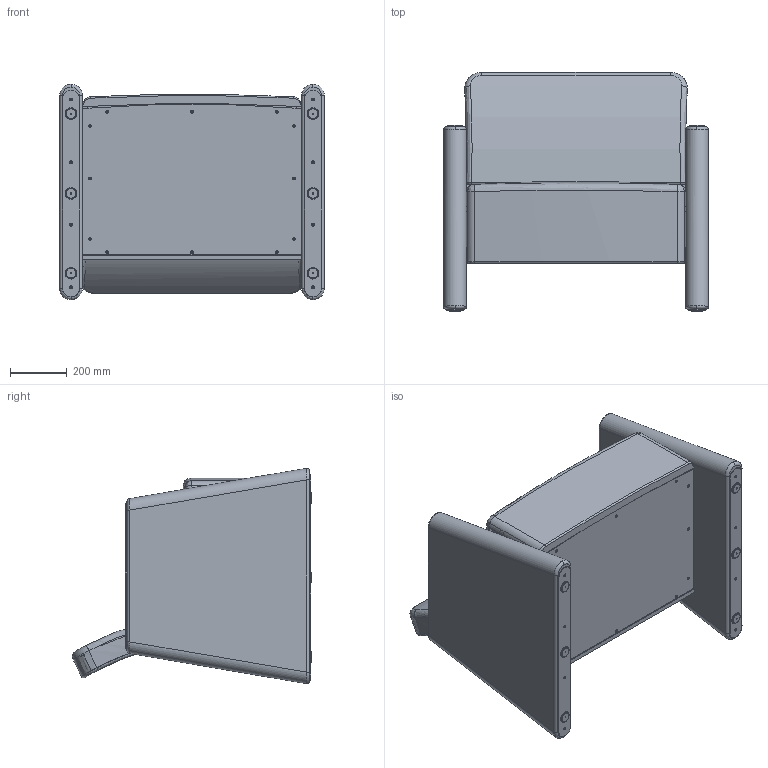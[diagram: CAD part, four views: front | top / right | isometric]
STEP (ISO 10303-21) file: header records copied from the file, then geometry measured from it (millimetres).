
FILE_DESCRIPTION(/* description */ ('STEP AP214'),/* implementation_level */ '2;1');
FILE_NAME(/* name */ 'Shore BH Bariatric Chair - STEP (Simplified).stp',/* time_stamp */ '2026-05-20T15:40:20+03:00',/* author */ ('Brian.Thangei'),/* organization */ (''),/* preprocessor_version */ 'ST-DEVELOPER v20',/* originating_system */ 'Autodesk Inventor 2025',/* authorisation */ '');
FILE_SCHEMA (('AUTOMOTIVE_DESIGN { 1 0 10303 214 3 1 1 }'));
Length unit declared in the file: millimetre
Products named in the file (1): 1301.02 - SHORE BH BARIATRIC
Bounding box: 930 x 840.12 x 756.46 mm (x, y, z)
Volume: 83720687.9 mm3; surface area: 7977075.8 mm2
Topology: 17 solids, 17 shells, 389 faces, 881 edges, 540 vertices
Faces by surface type: cylinder 149, plane 147, bspline 36, torus 33, cone 24
Full cylindrical faces by diameter (mm): 3 x4, 4.5 x34, 5 x4, 5.5 x8, 10 x4, 38 x6, 41 x6
Entity records: 19317 total; most frequent: CARTESIAN_POINT 10381, DIRECTION 1899, ORIENTED_EDGE 1762, EDGE_CURVE 881, AXIS2_PLACEMENT_3D 755, VERTEX_POINT 540, EDGE_LOOP 503, LINE 389
